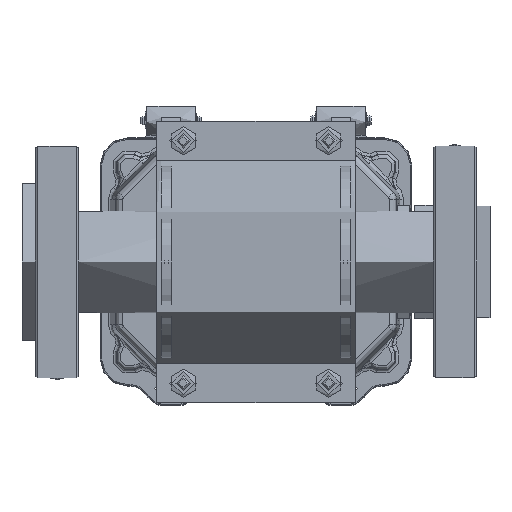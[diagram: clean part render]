
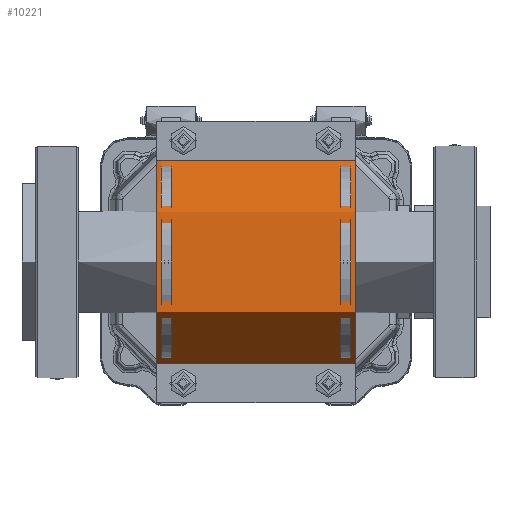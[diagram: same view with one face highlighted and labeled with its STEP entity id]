
A CAD part, front view. The second image highlights one B-rep face of the part: STEP entity #10221.
In plain terms, the highlighted cylindrical face has radius 42 mm (diameter 84 mm), a partial arc.
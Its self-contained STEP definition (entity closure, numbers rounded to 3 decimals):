
#10221=ADVANCED_FACE('',(#26730),#26732,.T.);
#26730=FACE_BOUND('',#26731,.T.);
#26731=EDGE_LOOP('',(#34892,#34893,#34894,#34895,#34896,#34897,#34898,#34899,#34900,
#34901));
#26732=CYLINDRICAL_SURFACE('',#26733,42.);
#26733=AXIS2_PLACEMENT_3D('',#26734,#26735,#26736);
#26734=CARTESIAN_POINT('',(-41.,-14.825,0.));
#26735=DIRECTION('',(1.,0.,0.));
#26736=DIRECTION('',(0.,0.,1.));
#34892=ORIENTED_EDGE('',*,*,#38668,.F.);
#34893=ORIENTED_EDGE('',*,*,#38650,.T.);
#34894=ORIENTED_EDGE('',*,*,#38687,.F.);
#34895=ORIENTED_EDGE('',*,*,#38672,.T.);
#34896=ORIENTED_EDGE('',*,*,#38595,.F.);
#34897=ORIENTED_EDGE('',*,*,#38688,.F.);
#34898=ORIENTED_EDGE('',*,*,#38587,.F.);
#34899=ORIENTED_EDGE('',*,*,#38681,.T.);
#34900=ORIENTED_EDGE('',*,*,#38689,.T.);
#34901=ORIENTED_EDGE('',*,*,#38640,.T.);
#38587=EDGE_CURVE('',#42524,#42526,#42527,.T.);
#38595=EDGE_CURVE('',#42538,#42540,#42541,.F.);
#38640=EDGE_CURVE('',#42613,#42451,#42614,.T.);
#38650=EDGE_CURVE('',#42443,#42627,#42629,.T.);
#38668=EDGE_CURVE('',#42443,#42451,#42657,.F.);
#38672=EDGE_CURVE('',#42663,#42540,#42664,.F.);
#38681=EDGE_CURVE('',#42524,#42673,#42675,.F.);
#38687=EDGE_CURVE('',#42663,#42627,#42685,.T.);
#38688=EDGE_CURVE('',#42526,#42538,#42686,.T.);
#38689=EDGE_CURVE('',#42673,#42613,#42687,.T.);
#42443=VERTEX_POINT('',#56339);
#42451=VERTEX_POINT('',#56357);
#42524=VERTEX_POINT('',#56536);
#42526=VERTEX_POINT('',#56540);
#42527=CIRCLE('',#56541,42.);
#42538=VERTEX_POINT('',#56567);
#42540=VERTEX_POINT('',#56571);
#42541=CIRCLE('',#56572,42.);
#42613=VERTEX_POINT('',#58246);
#42614=LINE('',#58247,#58248);
#42627=VERTEX_POINT('',#58278);
#42629=LINE('',#58282,#58283);
#42657=LINE('',#58597,#58598);
#42663=VERTEX_POINT('',#58613);
#42664=LINE('',#58614,#58615);
#42673=VERTEX_POINT('',#58639);
#42675=LINE('',#58643,#58644);
#42685=CIRCLE('',#58665,42.);
#42686=LINE('',#58669,#58670);
#42687=CIRCLE('',#58672,42.);
#56339=CARTESIAN_POINT('',(39.,-15.825,-41.988));
#56357=CARTESIAN_POINT('',(-39.,-15.825,-41.988));
#56536=CARTESIAN_POINT('',(-39.,-15.825,41.988));
#56540=CARTESIAN_POINT('',(-39.,-16.825,41.952));
#56541=AXIS2_PLACEMENT_3D('',#56542,#56543,#56544);
#56542=CARTESIAN_POINT('',(-39.,-14.825,0.));
#56543=DIRECTION('',(1.,0.,0.));
#56544=DIRECTION('',(0.,-0.024,1.));
#56567=CARTESIAN_POINT('',(39.,-16.825,41.952));
#56571=CARTESIAN_POINT('',(39.,-15.825,41.988));
#56572=AXIS2_PLACEMENT_3D('',#56573,#56574,#56575);
#56573=CARTESIAN_POINT('',(39.,-14.825,0.));
#56574=DIRECTION('',(1.,0.,0.));
#56575=DIRECTION('',(0.,-0.024,1.));
#58246=CARTESIAN_POINT('',(-41.,-15.825,-41.988));
#58247=CARTESIAN_POINT('',(-41.,-15.825,-41.988));
#58248=VECTOR('',#58249,1.);
#58249=DIRECTION('',(1.,0.,0.));
#58278=CARTESIAN_POINT('',(41.,-15.825,-41.988));
#58282=CARTESIAN_POINT('',(39.,-15.825,-41.988));
#58283=VECTOR('',#58284,1.);
#58284=DIRECTION('',(1.,0.,0.));
#58597=CARTESIAN_POINT('',(-39.,-15.825,-41.988));
#58598=VECTOR('',#58599,1.);
#58599=DIRECTION('',(1.,0.,0.));
#58613=CARTESIAN_POINT('',(41.,-15.825,41.988));
#58614=CARTESIAN_POINT('',(39.,-15.825,41.988));
#58615=VECTOR('',#58616,1.);
#58616=DIRECTION('',(1.,0.,0.));
#58639=CARTESIAN_POINT('',(-41.,-15.825,41.988));
#58643=CARTESIAN_POINT('',(-41.,-15.825,41.988));
#58644=VECTOR('',#58645,1.);
#58645=DIRECTION('',(1.,0.,0.));
#58665=AXIS2_PLACEMENT_3D('',#58666,#58667,#58668);
#58666=CARTESIAN_POINT('',(41.,-14.825,0.));
#58667=DIRECTION('',(1.,0.,0.));
#58668=DIRECTION('',(0.,-0.024,1.));
#58669=CARTESIAN_POINT('',(-39.,-16.825,41.952));
#58670=VECTOR('',#58671,1.);
#58671=DIRECTION('',(1.,0.,0.));
#58672=AXIS2_PLACEMENT_3D('',#58673,#58674,#58675);
#58673=CARTESIAN_POINT('',(-41.,-14.825,0.));
#58674=DIRECTION('',(1.,0.,0.));
#58675=DIRECTION('',(0.,-0.024,1.));
